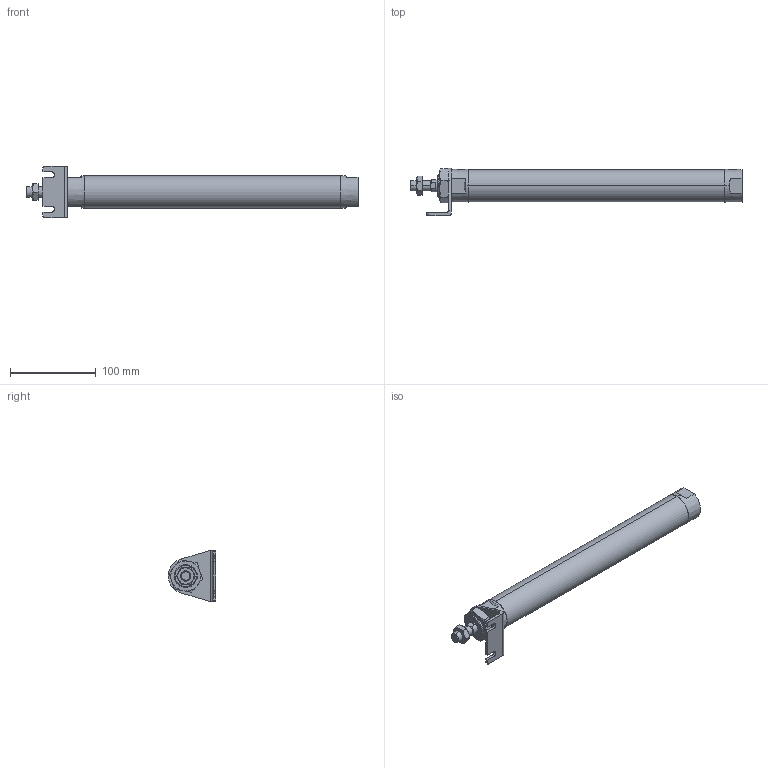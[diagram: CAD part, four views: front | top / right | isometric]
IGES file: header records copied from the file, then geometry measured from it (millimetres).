
Start section: SolidWorks IGES file using analytic representation for surfaces
Global section: file name: C:\Users\Toshiba\Desktop\JGND2-32-250-L.IGS; native system: SolidWorks 2014; preprocessor: SolidWorks 2014; author: Toshiba; date: 160804.110152; units: millimetre
Bounding box: 387 x 55.5 x 60 mm (x, y, z)
Surface area: 57841 mm2 (no closed solid volume)
Topology: 0 solids, 0 shells, 116 faces, 1918 edges, 1914 vertices
Faces by surface type: bspline 71, revolution 45
